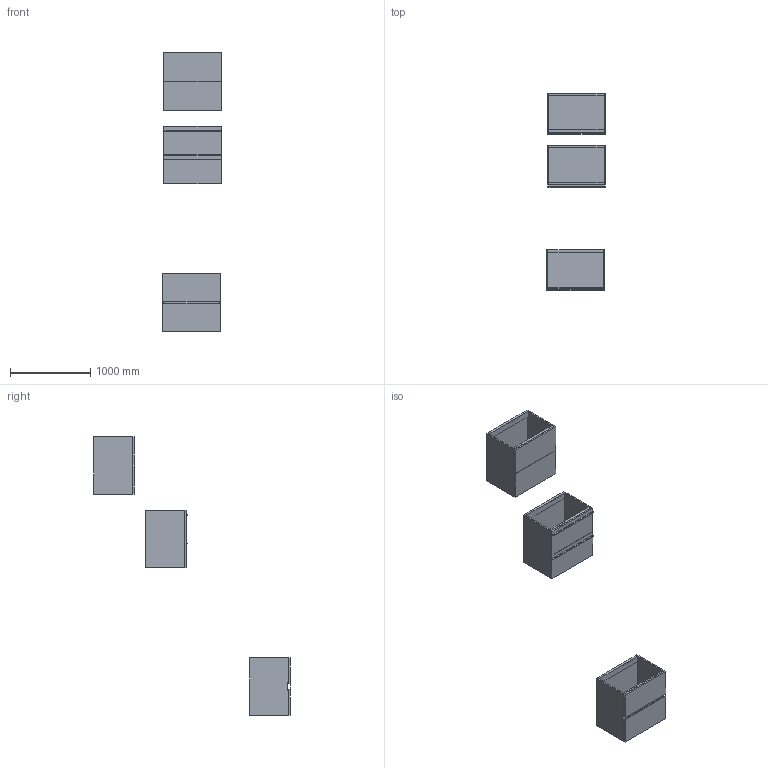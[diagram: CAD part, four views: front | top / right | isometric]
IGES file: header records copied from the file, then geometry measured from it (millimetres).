
Start section: Data from Parasolid IGES Translator 19.0.9, Copyright(c) 2006 Siemens PL M Software. All Rights Reserved.
Global section: file name: noorth-SI-H 72 D 51 W 72_8622.igs; native system: By Siemens PLM Incorporated; preprocessor: XPlus GENERIC/IGES 19.0.9; author: Noname; organization: Noname; date: 20200601.121457; units: metre
Bounding box: 731.38 x 2458 x 3480.01 mm (x, y, z)
Volume: 88899870.1 mm3; surface area: 13614195.9 mm2
Topology: 27 solids, 27 shells, 266 faces, 580 edges, 348 vertices
Faces by surface type: plane 182, extrusion 36, bspline 32, cylinder 16
